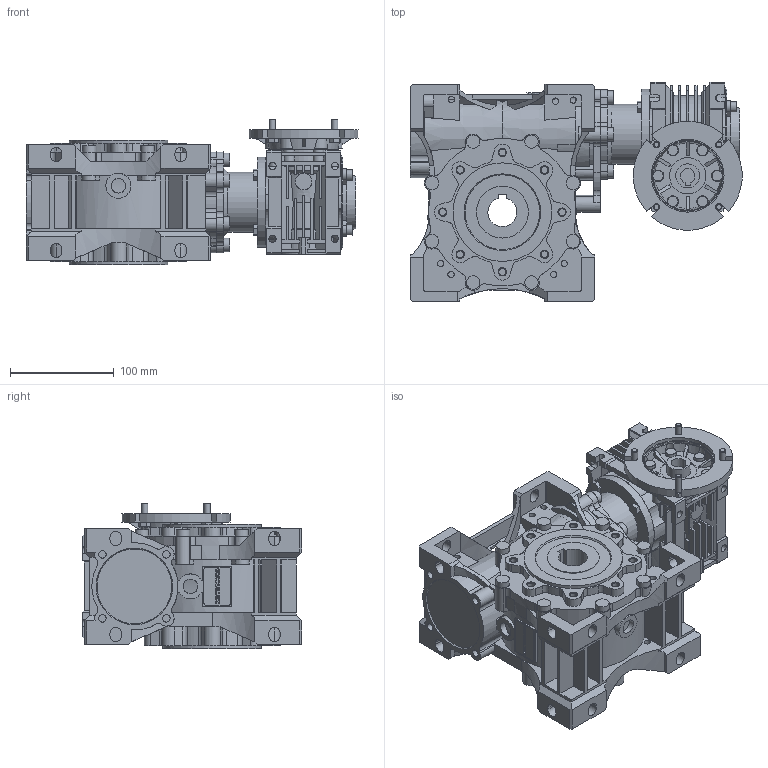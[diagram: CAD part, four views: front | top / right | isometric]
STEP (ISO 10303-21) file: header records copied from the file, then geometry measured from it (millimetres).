
FILE_DESCRIPTION(/* description */ ('STEP AP214'),/* implementation_level */ '2;1');
FILE_NAME(/* name */ 'NMRVP-NMRVP 040-075 100 (10x10) BS2 105x14 18 NO 28 NO NO - - NO - - - NO NO - --(--------)',/* time_stamp */ '2024-10-24T11:09:59+02:00',/* author */ ('License CC BY-ND 4.0'),/* organization */ ('CADENAS'),/* preprocessor_version */ 'ST-DEVELOPER v19.3',/* originating_system */ 'PARTsolutions',/* authorisation */ ' ');
FILE_SCHEMA (('AUTOMOTIVE_DESIGN {1 0 10303 214 3 1 1}'));
Products named in the file (11): NMRVP-NMRVP 040-075 100 (10x10) BS2 105x14 18 NO 28 NO NO - - NO - - 
- NO NO - --(--------); W.075.01.M; 075-28 (120); W.075.14.24.M-p; 040-075-TRA; W.040.01.M; 040-18 (78); VB 040-14 (14)-p; 4071 B14; Corona 40-p; 75-50
Assembly tree (10 placements, depth 2):
  NMRVP-NMRVP 040-075 100 (10x10) BS2 105x14 18 NO 28 NO NO - - NO - - 
- NO NO - --(--------)
    W.075.01.M
    075-28 (120)
    W.075.14.24.M-p
    040-075-TRA
    W.040.01.M
    040-18 (78)
    VB 040-14 (14)-p
    4071 B14
    Corona 40-p
    75-50
Bounding box: 319.83 x 211 x 140 mm (x, y, z)
Volume: 3557416.2 mm3; surface area: 564510.5 mm2
Topology: 10 solids, 16 shells, 2225 faces, 6033 edges, 3965 vertices
Faces by surface type: plane 1409, cylinder 711, cone 101, torus 4
Full cylindrical faces by diameter (mm): 4.917 x8, 5.55 x3, 6 x18, 6.647 x16, 7 x6, 7.26 x12, 10 x11, 10.8 x4, 11 x6, 13 x14, 14 x3, 16 x1, 23 x2, 24 x1, 28 x1, 29 x1, 30 x2, 31 x1, 35 x1, 36 x1, 40 x2, 42 x1, 47 x1, 48 x1, 50 x3, 58 x1, 60 x3, 68 x4, 70 x1, 75 x1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
Entity records: 84996 total; most frequent: CARTESIAN_POINT 13149, DIRECTION 11809, ORIENTED_EDGE 11632, EDGE_CURVE 5816, AXIS2_PLACEMENT_3D 4083, VERTEX_POINT 3932, LINE 3643, VECTOR 3643
